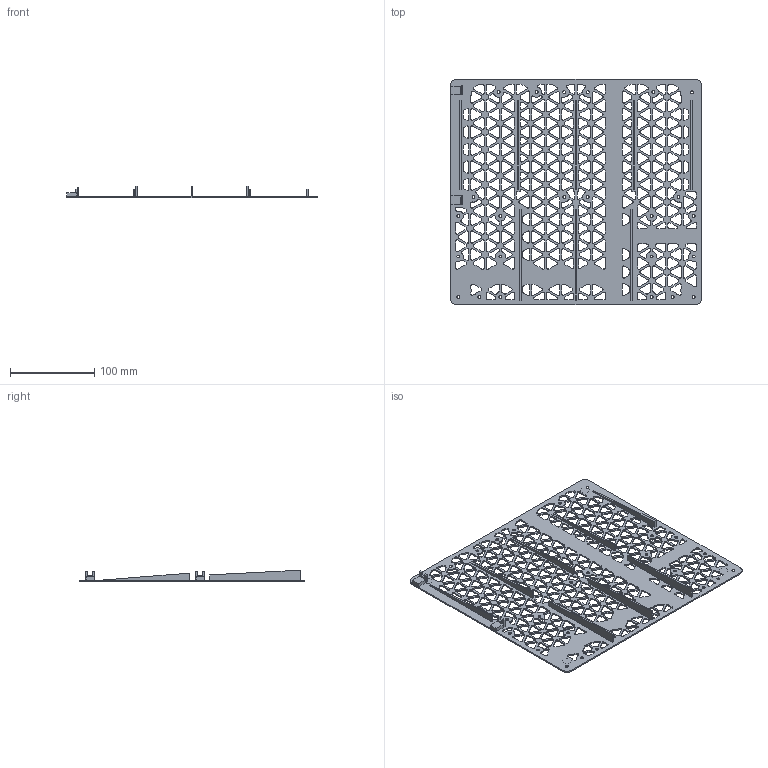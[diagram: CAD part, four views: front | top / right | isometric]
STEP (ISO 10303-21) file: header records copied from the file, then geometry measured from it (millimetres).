
FILE_DESCRIPTION(('Open CASCADE Model'),'2;1');
FILE_NAME('bottom_cover','2026-11-19T00:45:35',('Author'),( 'Open CASCADE'),'Open CASCADE STEP processor 8.0','build123d', 'Unknown');
FILE_SCHEMA(('AUTOMOTIVE_DESIGN { 1 0 10303 214 1 1 1 1 }'));
Products named in the file (1): bottom_cover
Bounding box: 298.4 x 268.02 x 13.83 mm (x, y, z)
Volume: 87242.1 mm3; surface area: 129174.1 mm2
Topology: 1 solids, 1 shells, 2310 faces, 6855 edges, 4562 vertices
Faces by surface type: cylinder 1175, plane 1111, cone 24
Full cylindrical faces by diameter (mm): 3.4 x24, 10.5 x3
Entity records: 171125 total; most frequent: CARTESIAN_POINT 45450, DIRECTION 21011, ORIENTED_EDGE 13710, PCURVE 13710, DEFINITIONAL_REPRESENTATION 13710, LINE 11571, VECTOR 11571, EDGE_CURVE 6855
